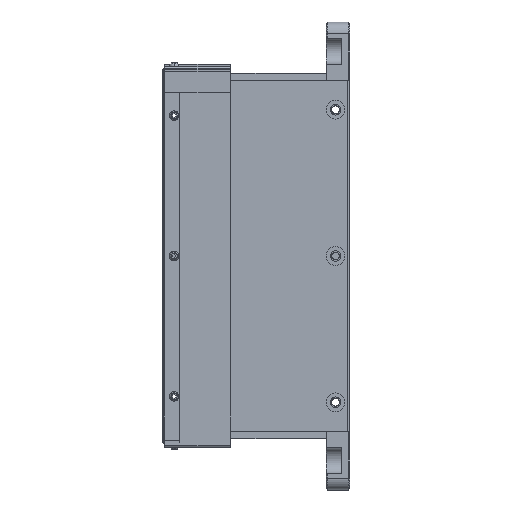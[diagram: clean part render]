
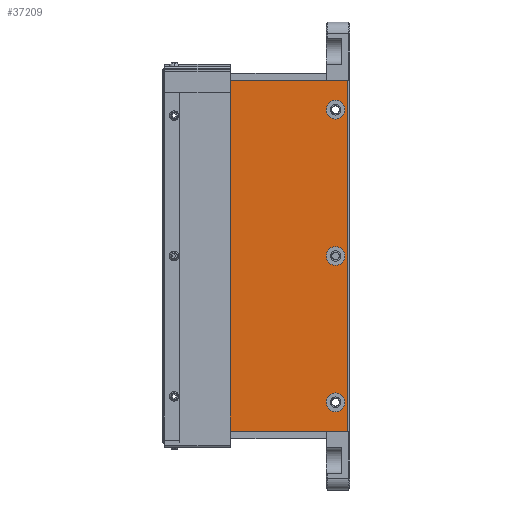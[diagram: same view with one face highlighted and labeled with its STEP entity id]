
A CAD part, left-side view. The second image highlights one B-rep face of the part: STEP entity #37209.
In plain terms, the highlighted planar face has unit normal (-1, 0, 0).
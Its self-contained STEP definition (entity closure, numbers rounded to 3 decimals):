
#534 = VECTOR ( 'NONE', #14706, 1000. ) ;
#711 = EDGE_LOOP ( 'NONE', ( #38939, #1920 ) ) ;
#1012 = AXIS2_PLACEMENT_3D ( 'NONE', #36058, #5564, #33229 ) ;
#1218 = CIRCLE ( 'NONE', #26702, 4. ) ;
#1842 = FACE_OUTER_BOUND ( 'NONE', #26357, .T. ) ;
#1856 = CARTESIAN_POINT ( 'NONE',  ( -79., 0., -75. ) ) ;
#1861 = DIRECTION ( 'NONE',  ( 0., 1., 0. ) ) ;
#1920 = ORIENTED_EDGE ( 'NONE', *, *, #6408, .F. ) ;
#2133 = DIRECTION ( 'NONE',  ( 0., 0., 1. ) ) ;
#2792 = EDGE_LOOP ( 'NONE', ( #20335, #28865 ) ) ;
#2807 = CARTESIAN_POINT ( 'NONE',  ( -79., 5., 66.5 ) ) ;
#3712 = DIRECTION ( 'NONE',  ( 0., 0., 1. ) ) ;
#3760 = DIRECTION ( 'NONE',  ( -1., 0., 0. ) ) ;
#4300 = DIRECTION ( 'NONE',  ( 0., 0., 1. ) ) ;
#4340 = CIRCLE ( 'NONE', #14902, 4. ) ;
#4469 = VERTEX_POINT ( 'NONE', #21330 ) ;
#4737 = CARTESIAN_POINT ( 'NONE',  ( -79., 0., 75. ) ) ;
#4829 = AXIS2_PLACEMENT_3D ( 'NONE', #7164, #3760, #4300 ) ;
#5564 = DIRECTION ( 'NONE',  ( -1., 0., 0. ) ) ;
#5942 = VERTEX_POINT ( 'NONE', #24805 ) ;
#6408 = EDGE_CURVE ( 'NONE', #27032, #32884, #14759, .T. ) ;
#6434 = CARTESIAN_POINT ( 'NONE',  ( -79., 0., 75. ) ) ;
#6509 = ORIENTED_EDGE ( 'NONE', *, *, #29669, .F. ) ;
#6972 = VERTEX_POINT ( 'NONE', #38887 ) ;
#7164 = CARTESIAN_POINT ( 'NONE',  ( -79., 5., 0. ) ) ;
#7740 = AXIS2_PLACEMENT_3D ( 'NONE', #22410, #33663, #39684 ) ;
#7765 = CARTESIAN_POINT ( 'NONE',  ( -79., 5., -4. ) ) ;
#8873 = VERTEX_POINT ( 'NONE', #17065 ) ;
#9717 = DIRECTION ( 'NONE',  ( -1., 0., 0. ) ) ;
#11642 = VERTEX_POINT ( 'NONE', #17375 ) ;
#12437 = EDGE_CURVE ( 'NONE', #29304, #4469, #35519, .T. ) ;
#13161 = AXIS2_PLACEMENT_3D ( 'NONE', #27167, #26640, #2133 ) ;
#14706 = DIRECTION ( 'NONE',  ( 0., 0., 1. ) ) ;
#14759 = CIRCLE ( 'NONE', #4829, 4. ) ;
#14802 = ORIENTED_EDGE ( 'NONE', *, *, #19287, .F. ) ;
#14902 = AXIS2_PLACEMENT_3D ( 'NONE', #34233, #37311, #3712 ) ;
#15323 = LINE ( 'NONE', #4737, #28361 ) ;
#15640 = CARTESIAN_POINT ( 'NONE',  ( -79., 5., 62.5 ) ) ;
#15974 = DIRECTION ( 'NONE',  ( 0., 0., -1. ) ) ;
#16650 = EDGE_CURVE ( 'NONE', #23170, #11642, #15323, .T. ) ;
#17065 = CARTESIAN_POINT ( 'NONE',  ( -79., 5., -58.5 ) ) ;
#17375 = CARTESIAN_POINT ( 'NONE',  ( -79., 0., 75. ) ) ;
#17890 = CARTESIAN_POINT ( 'NONE',  ( -79., 5., 4. ) ) ;
#18741 = EDGE_CURVE ( 'NONE', #5942, #8873, #27690, .T. ) ;
#19235 = LINE ( 'NONE', #29328, #25503 ) ;
#19287 = EDGE_CURVE ( 'NONE', #8873, #5942, #33865, .T. ) ;
#19331 = ORIENTED_EDGE ( 'NONE', *, *, #18741, .F. ) ;
#19582 = DIRECTION ( 'NONE',  ( -1., 0., 0. ) ) ;
#19676 = EDGE_CURVE ( 'NONE', #11642, #23312, #24235, .T. ) ;
#19710 = CARTESIAN_POINT ( 'NONE',  ( -79., 5., 62.5 ) ) ;
#20155 = FACE_BOUND ( 'NONE', #711, .T. ) ;
#20335 = ORIENTED_EDGE ( 'NONE', *, *, #12437, .F. ) ;
#21330 = CARTESIAN_POINT ( 'NONE',  ( -79., 5., 58.5 ) ) ;
#21446 = EDGE_CURVE ( 'NONE', #6972, #23170, #35627, .T. ) ;
#22410 = CARTESIAN_POINT ( 'NONE',  ( -79., 5., -62.5 ) ) ;
#22590 = ORIENTED_EDGE ( 'NONE', *, *, #21446, .F. ) ;
#23170 = VERTEX_POINT ( 'NONE', #34545 ) ;
#23312 = VERTEX_POINT ( 'NONE', #1856 ) ;
#23523 = PLANE ( 'NONE',  #13161 ) ;
#24235 = LINE ( 'NONE', #6434, #28613 ) ;
#24805 = CARTESIAN_POINT ( 'NONE',  ( -79., 5., -66.5 ) ) ;
#25503 = VECTOR ( 'NONE', #1861, 1000. ) ;
#26231 = EDGE_CURVE ( 'NONE', #4469, #29304, #1218, .T. ) ;
#26357 = EDGE_LOOP ( 'NONE', ( #6509, #30183, #35532, #22590 ) ) ;
#26640 = DIRECTION ( 'NONE',  ( -1., 0., 0. ) ) ;
#26702 = AXIS2_PLACEMENT_3D ( 'NONE', #19710, #19582, #31961 ) ;
#27032 = VERTEX_POINT ( 'NONE', #7765 ) ;
#27167 = CARTESIAN_POINT ( 'NONE',  ( -79., 34.5, 0. ) ) ;
#27690 = CIRCLE ( 'NONE', #1012, 4. ) ;
#28361 = VECTOR ( 'NONE', #38190, 1000. ) ;
#28613 = VECTOR ( 'NONE', #15974, 1000. ) ;
#28865 = ORIENTED_EDGE ( 'NONE', *, *, #26231, .F. ) ;
#28937 = EDGE_LOOP ( 'NONE', ( #14802, #19331 ) ) ;
#29175 = EDGE_CURVE ( 'NONE', #32884, #27032, #4340, .T. ) ;
#29304 = VERTEX_POINT ( 'NONE', #2807 ) ;
#29328 = CARTESIAN_POINT ( 'NONE',  ( -79., 0., -75. ) ) ;
#29669 = EDGE_CURVE ( 'NONE', #23312, #6972, #19235, .T. ) ;
#29792 = CARTESIAN_POINT ( 'NONE',  ( -79., 69., 75. ) ) ;
#30183 = ORIENTED_EDGE ( 'NONE', *, *, #19676, .F. ) ;
#31108 = DIRECTION ( 'NONE',  ( 0., 0., 1. ) ) ;
#31227 = FACE_BOUND ( 'NONE', #28937, .T. ) ;
#31961 = DIRECTION ( 'NONE',  ( 0., 0., 1. ) ) ;
#32807 = AXIS2_PLACEMENT_3D ( 'NONE', #15640, #9717, #31108 ) ;
#32884 = VERTEX_POINT ( 'NONE', #17890 ) ;
#33229 = DIRECTION ( 'NONE',  ( 0., 0., 1. ) ) ;
#33663 = DIRECTION ( 'NONE',  ( -1., 0., 0. ) ) ;
#33865 = CIRCLE ( 'NONE', #7740, 4. ) ;
#34083 = FACE_BOUND ( 'NONE', #2792, .T. ) ;
#34233 = CARTESIAN_POINT ( 'NONE',  ( -79., 5., 0. ) ) ;
#34545 = CARTESIAN_POINT ( 'NONE',  ( -79., 69., 75. ) ) ;
#35519 = CIRCLE ( 'NONE', #32807, 4. ) ;
#35532 = ORIENTED_EDGE ( 'NONE', *, *, #16650, .F. ) ;
#35627 = LINE ( 'NONE', #29792, #534 ) ;
#36058 = CARTESIAN_POINT ( 'NONE',  ( -79., 5., -62.5 ) ) ;
#37209 = ADVANCED_FACE ( 'NONE', ( #20155, #34083, #31227, #1842 ), #23523, .T. ) ;
#37311 = DIRECTION ( 'NONE',  ( -1., 0., 0. ) ) ;
#38190 = DIRECTION ( 'NONE',  ( 0., -1., 0. ) ) ;
#38887 = CARTESIAN_POINT ( 'NONE',  ( -79., 69., -75. ) ) ;
#38939 = ORIENTED_EDGE ( 'NONE', *, *, #29175, .F. ) ;
#39684 = DIRECTION ( 'NONE',  ( 0., 0., 1. ) ) ;
